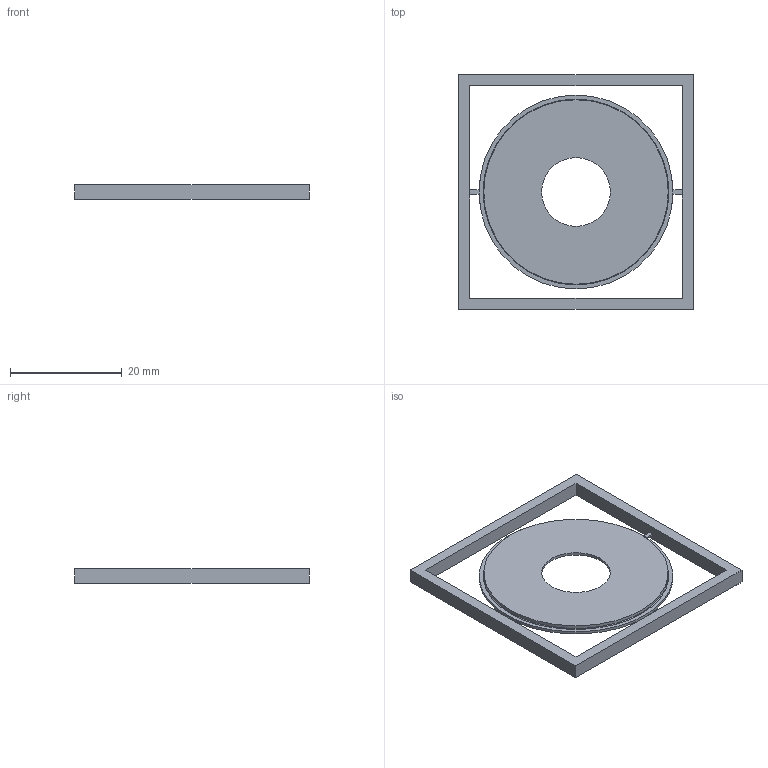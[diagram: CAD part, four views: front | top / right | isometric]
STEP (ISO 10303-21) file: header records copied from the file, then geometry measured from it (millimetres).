
FILE_DESCRIPTION(('FreeCAD Model'),'2;1');
FILE_NAME('Open CASCADE Shape Model','2026-09-23T11:17:55',('FreeCAD'),( 'FreeCAD'),'Open CASCADE STEP processor 7.8','FreeCAD','Unknown');
FILE_SCHEMA(('AUTOMOTIVE_DESIGN { 1 0 10303 214 1 1 1 1 }'));
Length unit declared in the file: millimetre
Products named in the file (1): Open CASCADE STEP translator 7.8 3
Bounding box: 42 x 42 x 2.6 mm (x, y, z)
Volume: 1509.4 mm3; surface area: 3325.4 mm2
Topology: 1 solids, 1 shells, 37 faces, 80 edges, 53 vertices
Faces by surface type: plane 27, cylinder 9, torus 1
Full cylindrical faces by diameter (mm): 1.7 x4, 12.3 x1, 15 x1, 31.6 x1, 33 x1, 34.7 x1
Entity records: 1034 total; most frequent: DIRECTION 182, CARTESIAN_POINT 171, ORIENTED_EDGE 160, EDGE_CURVE 80, AXIS2_PLACEMENT_3D 64, LINE 54, VECTOR 54, VERTEX_POINT 53
